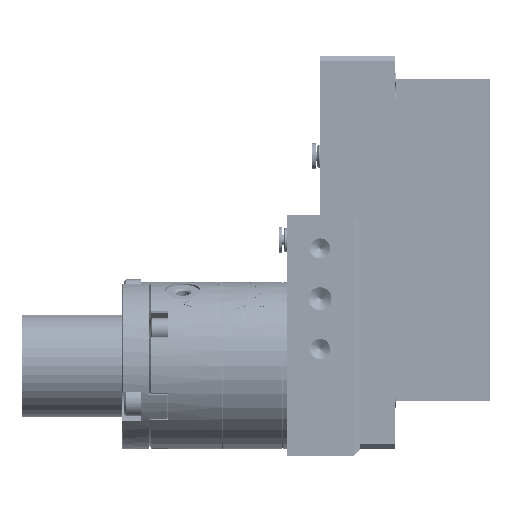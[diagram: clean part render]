
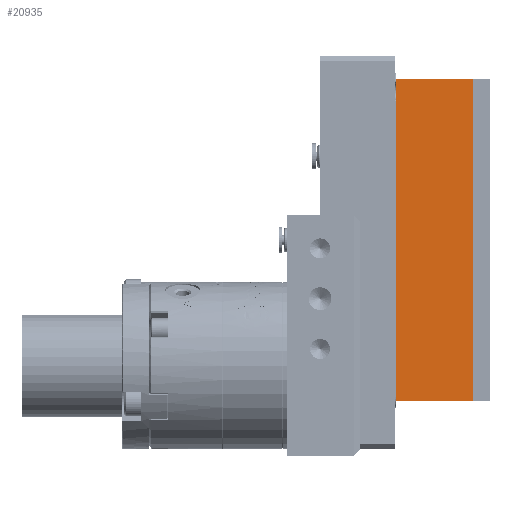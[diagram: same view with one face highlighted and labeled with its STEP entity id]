
A CAD part, left-side view. The second image highlights one B-rep face of the part: STEP entity #20935.
In plain terms, the highlighted planar face has unit normal (-1, 0, 0).
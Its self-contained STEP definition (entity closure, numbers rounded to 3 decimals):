
#1634 = DIRECTION ( 'NONE',  ( 0., 0., 1. ) ) ;
#15089 = PLANE ( 'NONE',  #154562 ) ;
#17996 = CARTESIAN_POINT ( 'NONE',  ( -15.56, -124.608, 48.1 ) ) ;
#19393 = CARTESIAN_POINT ( 'NONE',  ( -15.56, -23.5, 48.1 ) ) ;
#20935 = ADVANCED_FACE ( 'NONE', ( #241456 ), #15089, .T. ) ;
#40107 = LINE ( 'NONE', #261203, #141165 ) ;
#43505 = CARTESIAN_POINT ( 'NONE',  ( -15.56, -124.608, -48.1 ) ) ;
#43904 = DIRECTION ( 'NONE',  ( 0., 1., 0. ) ) ;
#51510 = ORIENTED_EDGE ( 'NONE', *, *, #239746, .F. ) ;
#53843 = EDGE_CURVE ( 'NONE', #137312, #93477, #40107, .T. ) ;
#66631 = DIRECTION ( 'NONE',  ( -1., 0., 0. ) ) ;
#67226 = EDGE_LOOP ( 'NONE', ( #51510, #229547, #128355, #136248 ) ) ;
#73385 = DIRECTION ( 'NONE',  ( 0., 0., -1. ) ) ;
#80871 = LINE ( 'NONE', #168992, #270204 ) ;
#92223 = VERTEX_POINT ( 'NONE', #19393 ) ;
#93477 = VERTEX_POINT ( 'NONE', #101379 ) ;
#101379 = CARTESIAN_POINT ( 'NONE',  ( -15.56, -0.5, 48.1 ) ) ;
#102947 = CARTESIAN_POINT ( 'NONE',  ( -15.56, -0.5, -48.1 ) ) ;
#107954 = DIRECTION ( 'NONE',  ( 0., 0., 1. ) ) ;
#127706 = LINE ( 'NONE', #17996, #151333 ) ;
#128355 = ORIENTED_EDGE ( 'NONE', *, *, #53843, .F. ) ;
#136248 = ORIENTED_EDGE ( 'NONE', *, *, #275196, .F. ) ;
#137312 = VERTEX_POINT ( 'NONE', #102947 ) ;
#141165 = VECTOR ( 'NONE', #107954, 1000. ) ;
#145489 = VECTOR ( 'NONE', #73385, 1000. ) ;
#151333 = VECTOR ( 'NONE', #43904, 1000. ) ;
#154562 = AXIS2_PLACEMENT_3D ( 'NONE', #43505, #66631, #1634 ) ;
#163443 = EDGE_CURVE ( 'NONE', #92223, #93477, #127706, .T. ) ;
#168992 = CARTESIAN_POINT ( 'NONE',  ( -15.56, -124.608, -48.1 ) ) ;
#183149 = LINE ( 'NONE', #271352, #145489 ) ;
#188816 = CARTESIAN_POINT ( 'NONE',  ( -15.56, -23.5, -48.1 ) ) ;
#229547 = ORIENTED_EDGE ( 'NONE', *, *, #163443, .T. ) ;
#233137 = VERTEX_POINT ( 'NONE', #188816 ) ;
#239746 = EDGE_CURVE ( 'NONE', #92223, #233137, #183149, .T. ) ;
#241456 = FACE_OUTER_BOUND ( 'NONE', #67226, .T. ) ;
#258638 = DIRECTION ( 'NONE',  ( 0., 1., 0. ) ) ;
#261203 = CARTESIAN_POINT ( 'NONE',  ( -15.56, -0.5, -48.1 ) ) ;
#270204 = VECTOR ( 'NONE', #258638, 1000. ) ;
#271352 = CARTESIAN_POINT ( 'NONE',  ( -15.56, -23.5, -48.1 ) ) ;
#275196 = EDGE_CURVE ( 'NONE', #233137, #137312, #80871, .T. ) ;
